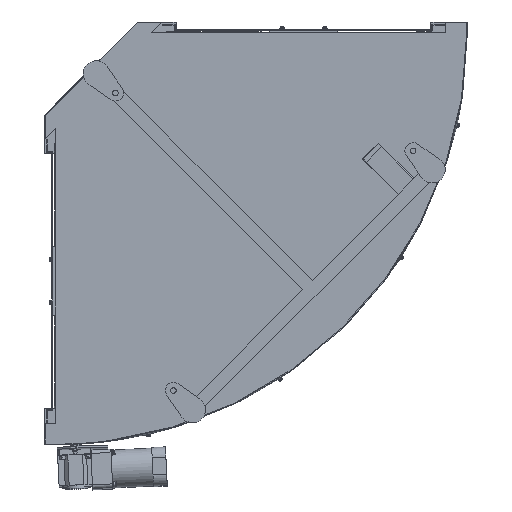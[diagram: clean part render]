
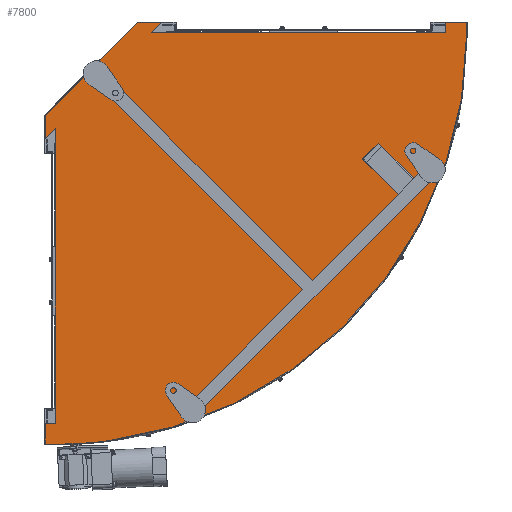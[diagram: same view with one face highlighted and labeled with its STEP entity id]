
A CAD part, front view. The second image highlights one B-rep face of the part: STEP entity #7800.
In plain terms, the highlighted planar face has unit normal (0, -1, 0).
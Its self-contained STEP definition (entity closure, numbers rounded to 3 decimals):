
#35 = CARTESIAN_POINT ( 'NONE',  ( 961.5, -157.5, 23.4 ) ) ;
#63 = ORIENTED_EDGE ( 'NONE', *, *, #2563, .T. ) ;
#178 = AXIS2_PLACEMENT_3D ( 'NONE', #1609, #4037, #19087 ) ;
#238 = DIRECTION ( 'NONE',  ( -1., 0., 0. ) ) ;
#370 = DIRECTION ( 'NONE',  ( 1., 0., 0. ) ) ;
#646 = VERTEX_POINT ( 'NONE', #20793 ) ;
#1182 = VERTEX_POINT ( 'NONE', #19289 ) ;
#1308 = CARTESIAN_POINT ( 'NONE',  ( -23.4, -157.5, -247.5 ) ) ;
#1601 = LINE ( 'NONE', #24037, #12939 ) ;
#1609 = CARTESIAN_POINT ( 'NONE',  ( 0., -157.5, 0. ) ) ;
#1997 = LINE ( 'NONE', #30785, #17257 ) ;
#2217 = DIRECTION ( 'NONE',  ( 0., 1., 0. ) ) ;
#2563 = EDGE_CURVE ( 'NONE', #23431, #17541, #32028, .T. ) ;
#2596 = ORIENTED_EDGE ( 'NONE', *, *, #28393, .T. ) ;
#2706 = DIRECTION ( 'NONE',  ( 0., 0., 1. ) ) ;
#3221 = CARTESIAN_POINT ( 'NONE',  ( -23.4, -157.5, -961.5 ) ) ;
#3248 = LINE ( 'NONE', #14870, #8359 ) ;
#3766 = DIRECTION ( 'NONE',  ( 1., 0., 0. ) ) ;
#4037 = DIRECTION ( 'NONE',  ( 0., -1., 0. ) ) ;
#4758 = EDGE_CURVE ( 'NONE', #8331, #14947, #11658, .T. ) ;
#4794 = VECTOR ( 'NONE', #2706, 1000. ) ;
#4935 = DIRECTION ( 'NONE',  ( 0., 0., -1. ) ) ;
#5171 = ORIENTED_EDGE ( 'NONE', *, *, #23784, .T. ) ;
#5176 = CARTESIAN_POINT ( 'NONE',  ( 912.5, -157.5, 23.4 ) ) ;
#5273 = ORIENTED_EDGE ( 'NONE', *, *, #25850, .F. ) ;
#5302 = VERTEX_POINT ( 'NONE', #8220 ) ;
#5345 = DIRECTION ( 'NONE',  ( 0., 0., 1. ) ) ;
#5513 = DIRECTION ( 'NONE',  ( 0., 0., -1. ) ) ;
#5708 = CIRCLE ( 'NONE', #178, 961.5 ) ;
#5746 = VERTEX_POINT ( 'NONE', #17512 ) ;
#5772 = VECTOR ( 'NONE', #13758, 1000. ) ;
#5987 = VECTOR ( 'NONE', #14971, 1000. ) ;
#6039 = FACE_OUTER_BOUND ( 'NONE', #11179, .T. ) ;
#6374 = LINE ( 'NONE', #26816, #21569 ) ;
#6824 = PLANE ( 'NONE',  #15576 ) ;
#7148 = VERTEX_POINT ( 'NONE', #29076 ) ;
#7800 = ADVANCED_FACE ( 'NONE', ( #6039 ), #6824, .F. ) ;
#7832 = CARTESIAN_POINT ( 'NONE',  ( -23.4, -157.5, -961.5 ) ) ;
#7976 = VERTEX_POINT ( 'NONE', #26916 ) ;
#8070 = ORIENTED_EDGE ( 'NONE', *, *, #31466, .T. ) ;
#8089 = CARTESIAN_POINT ( 'NONE',  ( 0., -157.5, -912.5 ) ) ;
#8220 = CARTESIAN_POINT ( 'NONE',  ( 961.5, -157.5, 0. ) ) ;
#8331 = VERTEX_POINT ( 'NONE', #21330 ) ;
#8359 = VECTOR ( 'NONE', #19669, 1000. ) ;
#8522 = LINE ( 'NONE', #11502, #5772 ) ;
#8644 = VECTOR ( 'NONE', #3766, 1000. ) ;
#9292 = CARTESIAN_POINT ( 'NONE',  ( 912.5, -157.5, 0. ) ) ;
#9387 = CARTESIAN_POINT ( 'NONE',  ( 0., -157.5, 0. ) ) ;
#9425 = AXIS2_PLACEMENT_3D ( 'NONE', #29852, #19936, #5345 ) ;
#9670 = VERTEX_POINT ( 'NONE', #15833 ) ;
#9950 = CARTESIAN_POINT ( 'NONE',  ( 961.5, -157.5, 0. ) ) ;
#10128 = VECTOR ( 'NONE', #238, 1000. ) ;
#11179 = EDGE_LOOP ( 'NONE', ( #5273, #63, #17240, #5171, #18035, #20581, #11301, #17642, #12429, #13748, #20368, #17161, #8070, #2596, #18140, #26459 ) ) ;
#11301 = ORIENTED_EDGE ( 'NONE', *, *, #29722, .T. ) ;
#11434 = LINE ( 'NONE', #9950, #4794 ) ;
#11502 = CARTESIAN_POINT ( 'NONE',  ( 193.163, -157.5, 23.4 ) ) ;
#11654 = CARTESIAN_POINT ( 'NONE',  ( -23.4, -157.5, -247.5 ) ) ;
#11658 = LINE ( 'NONE', #1308, #22538 ) ;
#11846 = LINE ( 'NONE', #5176, #15313 ) ;
#12188 = EDGE_CURVE ( 'NONE', #7148, #21431, #26144, .T. ) ;
#12429 = ORIENTED_EDGE ( 'NONE', *, *, #28194, .T. ) ;
#12939 = VECTOR ( 'NONE', #13675, 1000. ) ;
#13139 = DIRECTION ( 'NONE',  ( 0., 0., 1. ) ) ;
#13343 = DIRECTION ( 'NONE',  ( -1., 0., 0. ) ) ;
#13567 = EDGE_CURVE ( 'NONE', #17541, #31209, #27211, .T. ) ;
#13675 = DIRECTION ( 'NONE',  ( -1., 0., 0. ) ) ;
#13748 = ORIENTED_EDGE ( 'NONE', *, *, #31582, .T. ) ;
#13758 = DIRECTION ( 'NONE',  ( -0.707, 0., -0.707 ) ) ;
#14836 = VECTOR ( 'NONE', #13343, 1000. ) ;
#14870 = CARTESIAN_POINT ( 'NONE',  ( 247.5, -157.5, 23.4 ) ) ;
#14947 = VERTEX_POINT ( 'NONE', #30692 ) ;
#14971 = DIRECTION ( 'NONE',  ( 0.707, 0., 0.707 ) ) ;
#15313 = VECTOR ( 'NONE', #5513, 1000. ) ;
#15576 = AXIS2_PLACEMENT_3D ( 'NONE', #9387, #2217, #19777 ) ;
#15833 = CARTESIAN_POINT ( 'NONE',  ( 912.5, -157.5, 23.4 ) ) ;
#15861 = VERTEX_POINT ( 'NONE', #32132 ) ;
#15916 = CARTESIAN_POINT ( 'NONE',  ( 0., -157.5, -961.5 ) ) ;
#16106 = LINE ( 'NONE', #11654, #5987 ) ;
#17161 = ORIENTED_EDGE ( 'NONE', *, *, #31415, .T. ) ;
#17240 = ORIENTED_EDGE ( 'NONE', *, *, #13567, .T. ) ;
#17257 = VECTOR ( 'NONE', #13139, 1000. ) ;
#17470 = EDGE_CURVE ( 'NONE', #5302, #27369, #11434, .T. ) ;
#17512 = CARTESIAN_POINT ( 'NONE',  ( -23.4, -157.5, -193.163 ) ) ;
#17534 = CARTESIAN_POINT ( 'NONE',  ( -23.4, -157.5, -912.5 ) ) ;
#17541 = VERTEX_POINT ( 'NONE', #17950 ) ;
#17642 = ORIENTED_EDGE ( 'NONE', *, *, #17470, .T. ) ;
#17950 = CARTESIAN_POINT ( 'NONE',  ( -23.4, -157.5, -912.5 ) ) ;
#18035 = ORIENTED_EDGE ( 'NONE', *, *, #26005, .F. ) ;
#18140 = ORIENTED_EDGE ( 'NONE', *, *, #22590, .T. ) ;
#18455 = CARTESIAN_POINT ( 'NONE',  ( 0., -157.5, -912.5 ) ) ;
#19087 = DIRECTION ( 'NONE',  ( 0., 0., 1. ) ) ;
#19289 = CARTESIAN_POINT ( 'NONE',  ( 193.163, -157.5, 23.4 ) ) ;
#19443 = LINE ( 'NONE', #24918, #10128 ) ;
#19511 = DIRECTION ( 'NONE',  ( 0., 0., -1. ) ) ;
#19669 = DIRECTION ( 'NONE',  ( -1., 0., 0. ) ) ;
#19777 = DIRECTION ( 'NONE',  ( 0., 0., 1. ) ) ;
#19936 = DIRECTION ( 'NONE',  ( 0., -1., 0. ) ) ;
#20368 = ORIENTED_EDGE ( 'NONE', *, *, #12188, .F. ) ;
#20581 = ORIENTED_EDGE ( 'NONE', *, *, #21115, .T. ) ;
#20793 = CARTESIAN_POINT ( 'NONE',  ( -5., -157.5, -961.5 ) ) ;
#20831 = VERTEX_POINT ( 'NONE', #15916 ) ;
#21115 = EDGE_CURVE ( 'NONE', #20831, #7976, #27116, .T. ) ;
#21330 = CARTESIAN_POINT ( 'NONE',  ( -23.4, -157.5, -247.5 ) ) ;
#21431 = VERTEX_POINT ( 'NONE', #9292 ) ;
#21569 = VECTOR ( 'NONE', #19511, 1000. ) ;
#22538 = VECTOR ( 'NONE', #25974, 1000. ) ;
#22590 = EDGE_CURVE ( 'NONE', #5746, #8331, #6374, .T. ) ;
#23431 = VERTEX_POINT ( 'NONE', #8089 ) ;
#23784 = EDGE_CURVE ( 'NONE', #31209, #646, #25005, .T. ) ;
#24037 = CARTESIAN_POINT ( 'NONE',  ( 0., -157.5, -961.5 ) ) ;
#24918 = CARTESIAN_POINT ( 'NONE',  ( 961.5, -157.5, 23.4 ) ) ;
#25005 = LINE ( 'NONE', #7832, #28125 ) ;
#25850 = EDGE_CURVE ( 'NONE', #23431, #14947, #1997, .T. ) ;
#25974 = DIRECTION ( 'NONE',  ( 0.707, 0., 0.707 ) ) ;
#26005 = EDGE_CURVE ( 'NONE', #20831, #646, #1601, .T. ) ;
#26144 = LINE ( 'NONE', #31441, #8644 ) ;
#26459 = ORIENTED_EDGE ( 'NONE', *, *, #4758, .T. ) ;
#26816 = CARTESIAN_POINT ( 'NONE',  ( -23.4, -157.5, -193.163 ) ) ;
#26916 = CARTESIAN_POINT ( 'NONE',  ( 124.442, -157.5, -953.413 ) ) ;
#27116 = CIRCLE ( 'NONE', #9425, 961.5 ) ;
#27211 = LINE ( 'NONE', #17534, #31919 ) ;
#27369 = VERTEX_POINT ( 'NONE', #35 ) ;
#28125 = VECTOR ( 'NONE', #370, 1000. ) ;
#28194 = EDGE_CURVE ( 'NONE', #27369, #9670, #19443, .T. ) ;
#28393 = EDGE_CURVE ( 'NONE', #1182, #5746, #8522, .T. ) ;
#29076 = CARTESIAN_POINT ( 'NONE',  ( 224.1, -157.5, 0. ) ) ;
#29722 = EDGE_CURVE ( 'NONE', #7976, #5302, #5708, .T. ) ;
#29852 = CARTESIAN_POINT ( 'NONE',  ( 0., -157.5, 0. ) ) ;
#30692 = CARTESIAN_POINT ( 'NONE',  ( 0., -157.5, -224.1 ) ) ;
#30785 = CARTESIAN_POINT ( 'NONE',  ( 0., -157.5, -912.5 ) ) ;
#31209 = VERTEX_POINT ( 'NONE', #3221 ) ;
#31415 = EDGE_CURVE ( 'NONE', #7148, #15861, #16106, .T. ) ;
#31441 = CARTESIAN_POINT ( 'NONE',  ( 224.1, -157.5, 0. ) ) ;
#31466 = EDGE_CURVE ( 'NONE', #15861, #1182, #3248, .T. ) ;
#31582 = EDGE_CURVE ( 'NONE', #9670, #21431, #11846, .T. ) ;
#31919 = VECTOR ( 'NONE', #4935, 1000. ) ;
#32028 = LINE ( 'NONE', #18455, #14836 ) ;
#32132 = CARTESIAN_POINT ( 'NONE',  ( 247.5, -157.5, 23.4 ) ) ;
